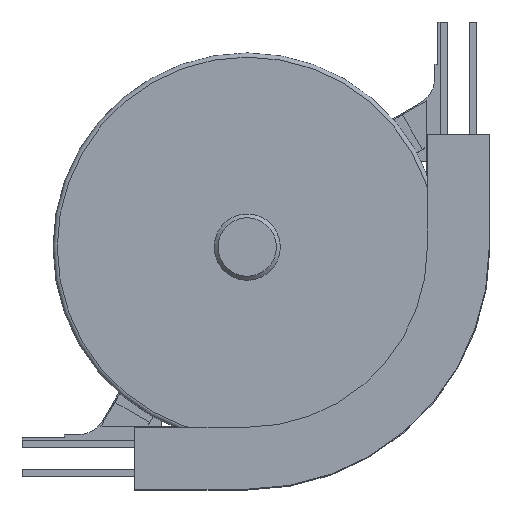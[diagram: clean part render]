
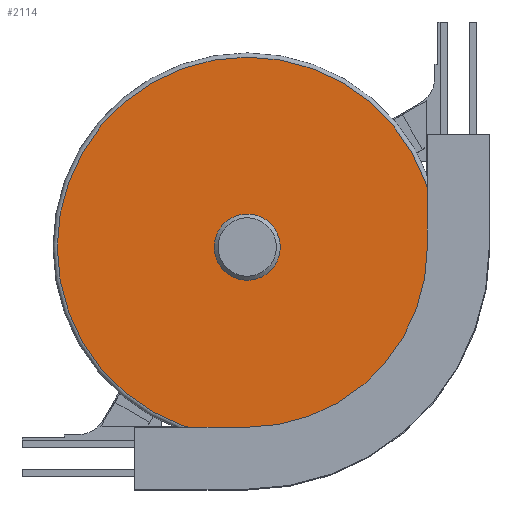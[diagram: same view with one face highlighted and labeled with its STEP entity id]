
A CAD part, top view. The second image highlights one B-rep face of the part: STEP entity #2114.
In plain terms, the highlighted planar face has unit normal (0, 0, 1).
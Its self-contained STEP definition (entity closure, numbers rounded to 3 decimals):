
#41=FACE_BOUND('',#345,.T.);
#81=CIRCLE('',#2283,135.);
#83=CIRCLE('',#2286,21.);
#213=FACE_OUTER_BOUND('',#344,.T.);
#344=EDGE_LOOP('',(#1806));
#345=EDGE_LOOP('',(#1807));
#1023=VERTEX_POINT('',#3376);
#1024=VERTEX_POINT('',#3380);
#1290=EDGE_CURVE('',#1023,#1023,#81,.T.);
#1292=EDGE_CURVE('',#1024,#1024,#83,.T.);
#1806=ORIENTED_EDGE('',*,*,#1290,.T.);
#1807=ORIENTED_EDGE('',*,*,#1292,.F.);
#2000=PLANE('',#2285);
#2114=ADVANCED_FACE('',(#213,#41),#2000,.T.);
#2283=AXIS2_PLACEMENT_3D('',#3377,#2769,#2770);
#2285=AXIS2_PLACEMENT_3D('',#3379,#2773,#2774);
#2286=AXIS2_PLACEMENT_3D('',#3381,#2775,#2776);
#2769=DIRECTION('center_axis',(0.,0.,1.));
#2770=DIRECTION('ref_axis',(1.,0.,0.));
#2773=DIRECTION('center_axis',(0.,0.,1.));
#2774=DIRECTION('ref_axis',(1.,0.,0.));
#2775=DIRECTION('center_axis',(0.,0.,1.));
#2776=DIRECTION('ref_axis',(1.,0.,0.));
#3376=CARTESIAN_POINT('',(-55.,150.,33.5));
#3377=CARTESIAN_POINT('Origin',(80.,150.,33.5));
#3379=CARTESIAN_POINT('Origin',(65.151,164.849,33.5));
#3380=CARTESIAN_POINT('',(94.849,135.151,33.5));
#3381=CARTESIAN_POINT('Origin',(80.,150.,33.5));
